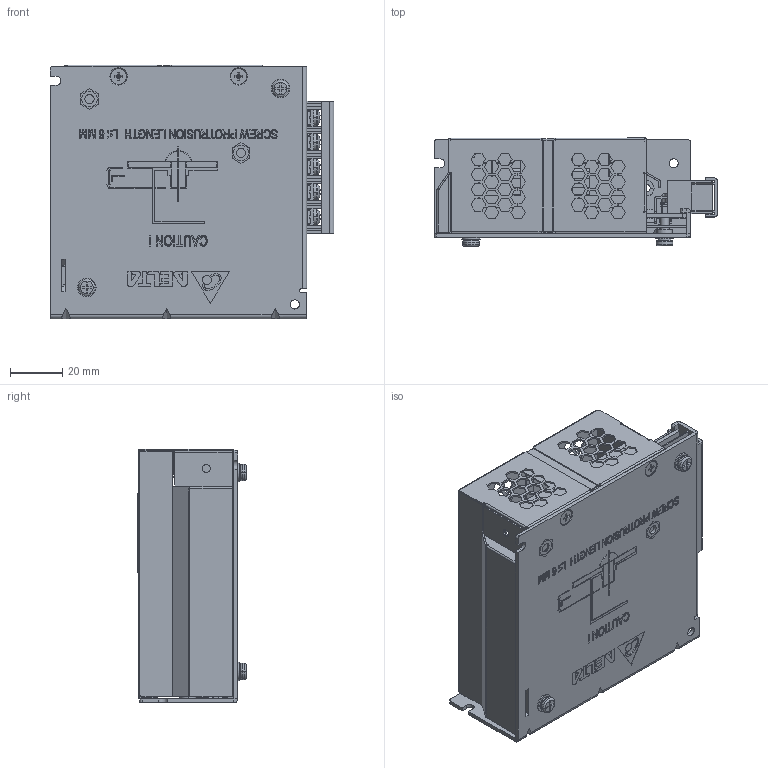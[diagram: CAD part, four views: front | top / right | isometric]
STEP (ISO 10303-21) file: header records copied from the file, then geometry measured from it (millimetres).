
FILE_DESCRIPTION((''),'2;1');
FILE_NAME('PMH-24V50WCAA_ASM','2017-06-21T',('Yuthaphichai.Chan'),(''),'PRO/ENGINEER BY PARAMETRIC TECHNOLOGY CORPORATION, 2010180','PRO/ENGINEER BY PARAMETRIC TECHNOLOGY CORPORATION, 2010180','');
FILE_SCHEMA(('CONFIG_CONTROL_DESIGN','SHAPE_APPEARANCE_LAYERS_GROUPS'));
Products named in the file (27): 331609650101_3; 331609650101_A_STUD_1; 331609650101_ASM_3_ASM; 331605710101_3; INSULATOR-CHASSIS_50; 326203870304_1; 3268095800_1; 295_PWB_9; EE_VR510_A_BODY_1; EE_VR510_A_LEG_1; EE_VR510_ASM_35_ASM; EE_LED350_2301151506_1; BT25U101_1; BT24-KO31-05-M201-20120103_1; BT24-KO31-05-M101-20120103_1; T24P101-20110103_1; PIN_1; ASSEM1_ASM_1_ASM; ASSY_PWB_PMH-24V50WCAA_ASM_85_ASM; 3103301000_1; 3100001000_1; 3460405500_1; 3100000400_1; 3202315200_1; SYSTEMSCREW_2; PMH-24V50WCAA_ASM_114_ASM; PMH-24V50WCAA_ASM
Assembly tree (43 placements, depth 5):
  PMH-24V50WCAA_ASM
    PMH-24V50WCAA_ASM_114_ASM
      331609650101_ASM_3_ASM
        331609650101_3
        331609650101_A_STUD_1  x2
      331605710101_3
      INSULATOR-CHASSIS_50
      326203870304_1
      3268095800_1
      ASSY_PWB_PMH-24V50WCAA_ASM_85_ASM
        295_PWB_9
        EE_VR510_ASM_35_ASM
          EE_VR510_A_BODY_1
          EE_VR510_A_LEG_1  x3
        EE_LED350_2301151506_1
        ASSEM1_ASM_1_ASM
          BT25U101_1  x5
          BT24-KO31-05-M201-20120103_1
          BT24-KO31-05-M101-20120103_1
          T24P101-20110103_1  x5
          PIN_1  x2
      3103301000_1  x2
      3100001000_1
      3460405500_1
      3100000400_1  x4
      3202315200_1
      SYSTEMSCREW_2  x2
Bounding box: 108.35 x 41.35 x 97.05 mm (x, y, z)
Volume: 56910.4 mm3; surface area: 115215.6 mm2
Topology: 38 solids, 38 shells, 5993 faces, 16335 edges, 10393 vertices
Faces by surface type: plane 4304, cylinder 750, extrusion 573, bspline 192, cone 98, torus 66, sphere 10
Entity records: 188222 total; most frequent: CARTESIAN_POINT 35666, ORIENTED_EDGE 25150, DIRECTION 20972, EDGE_CURVE 12575, PRESENTATION_STYLE_ASSIGNMENT 12295, STYLED_ITEM 12227, CURVE_STYLE 12211, VECTOR 10522
